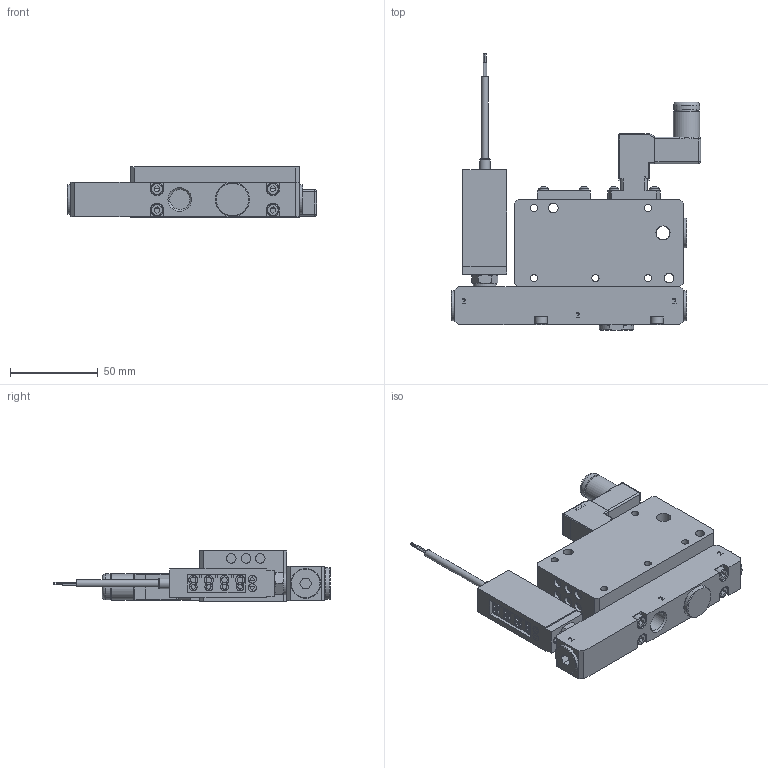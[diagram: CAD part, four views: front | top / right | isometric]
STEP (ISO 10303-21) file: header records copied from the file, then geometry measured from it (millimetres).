
FILE_DESCRIPTION(/* description */ ('GENERATORI DI VUOTO MULTISTADIO MODULARE 6 UGELLI (GVMES-6) SENZA EV. CONTROSOFFIO'),/* implementation_level */ '2;1');
FILE_NAME(/* name */ 'C:\PNX_VAULTFOLDER\Area Tecnica\Disegni\VARIE-3D\Componenti\1900 (vuoto)\19M14_M_15_ME_02.stp',/* time_stamp */ '2021-05-04T09:55:55+02:00',/* author */ ('maniean1'),/* organization */ (''),/* preprocessor_version */ 'ST-DEVELOPER v18.1',/* originating_system */ 'Autodesk Inventor 2021',/* authorisation */ '');
FILE_SCHEMA (('AUTOMOTIVE_DESIGN { 1 0 10303 214 3 1 1 }'));
Length unit declared in the file: millimetre
Products named in the file (7): 19M14.M.15.ME.02; 19M14_M_15_ME_ED_c; N221.0F; T10714; N221.00; DS.30.C.C.F8.#.0; 315.11.00
Assembly tree (8 placements, depth 2):
  19M14.M.15.ME.02
    19M14_M_15_ME_ED_c
    N221.0F
    T10714  x3
    N221.00
    DS.30.C.C.F8.#.0
    315.11.00
Bounding box: 141.9 x 157.3 x 28.5 mm (x, y, z)
Volume: 231616.1 mm3; surface area: 51555.7 mm2
Topology: 8 solids, 26 shells, 951 faces, 2338 edges, 1515 vertices
Faces by surface type: plane 509, cylinder 192, bspline 158, cone 61, torus 20, sphere 11
Full cylindrical faces by diameter (mm): 0.6 x3, 1 x2, 2 x2, 2.2 x2, 2.459 x5, 3 x5, 3.2 x2, 3.242 x4, 3.8 x3, 4 x7, 4.1 x10, 4.4 x1, 4.9 x1, 5.5 x12, 6 x1, 6.5 x1, 6.9 x1, 7 x6, 7.6 x1, 8 x2, 8.566 x1, 9.73 x1, 10 x1, 10.4 x1, 10.8 x1, 11.445 x4, 12.9 x1, 13 x1, 13.2 x3, 14.8 x1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
Entity records: 36326 total; most frequent: CARTESIAN_POINT 13855, ORIENTED_EDGE 4542, DIRECTION 3956, EDGE_CURVE 2271, VERTEX_POINT 1481, LINE 1324, VECTOR 1324, AXIS2_PLACEMENT_3D 1316
